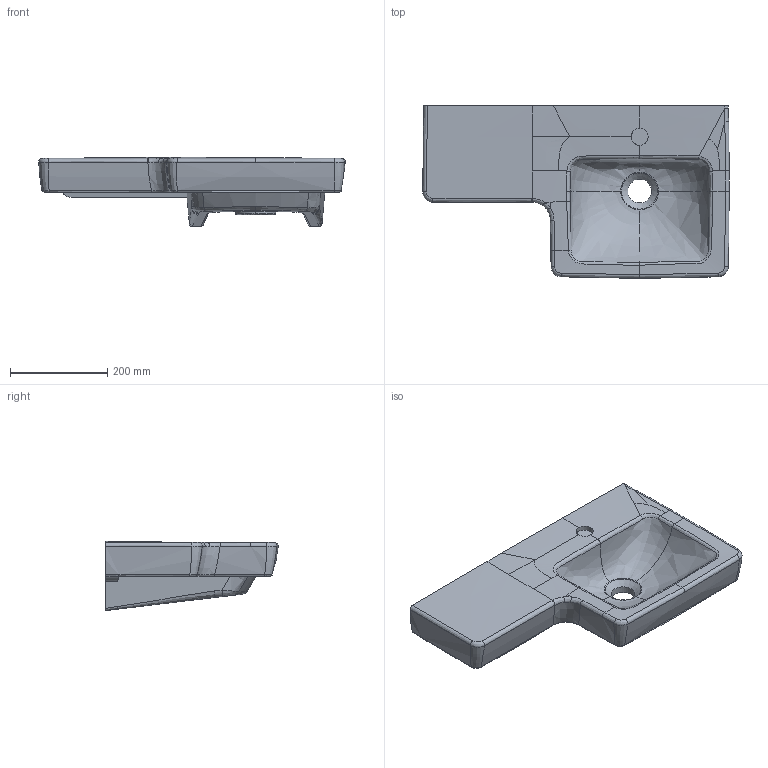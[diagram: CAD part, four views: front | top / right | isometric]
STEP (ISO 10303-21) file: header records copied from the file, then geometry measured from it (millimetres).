
FILE_DESCRIPTION(/* description */ (''),/* implementation_level */ '2;1');
FILE_NAME(/* name */ '41156R_Subway2.0_WT60_Rechts.stp',/* time_stamp */ '2018-09-28T10:56:01+02:00',/* author */ (''),/* organization */ (''),/* preprocessor_version */ 'ST-DEVELOPER v16',/* originating_system */ 'SIEMENS PLM Software NX 10.0',/* authorisation */ '');
FILE_SCHEMA (('AUTOMOTIVE_DESIGN { 1 0 10303 214 3 1 1 1 }'));
Length unit declared in the file: millimetre
Products named in the file (1): Conz1BB89C55r39i
Bounding box: 629.18 x 354.03 x 141.97 mm (x, y, z)
Volume: 10944087.5 mm3; surface area: 584527 mm2
Topology: 1 solids, 1 shells, 137 faces, 391 edges, 247 vertices
Faces by surface type: bspline 119, plane 13, cylinder 3, extrusion 1, cone 1
Full cylindrical faces by diameter (mm): 34.996 x1, 48.76 x1
Entity records: 19189 total; most frequent: CARTESIAN_POINT 16783, ORIENTED_EDGE 756, EDGE_CURVE 378, B_SPLINE_CURVE_WITH_KNOTS 269, VERTEX_POINT 245, EDGE_LOOP 141, ADVANCED_FACE 137, FACE_OUTER_BOUND 133
